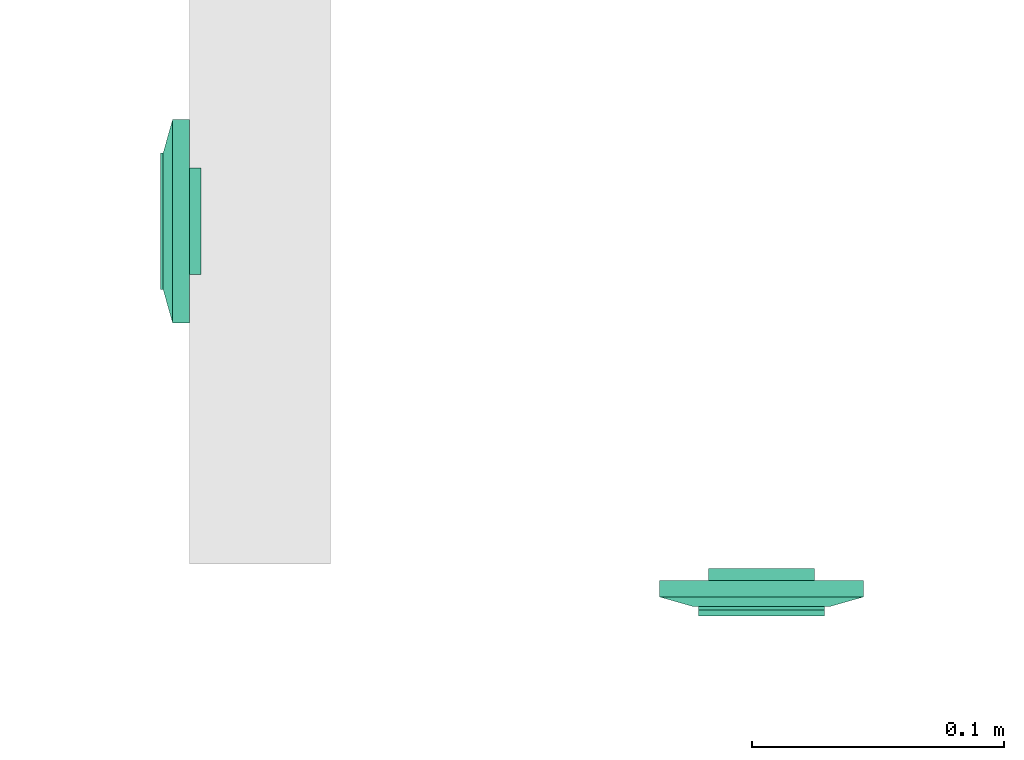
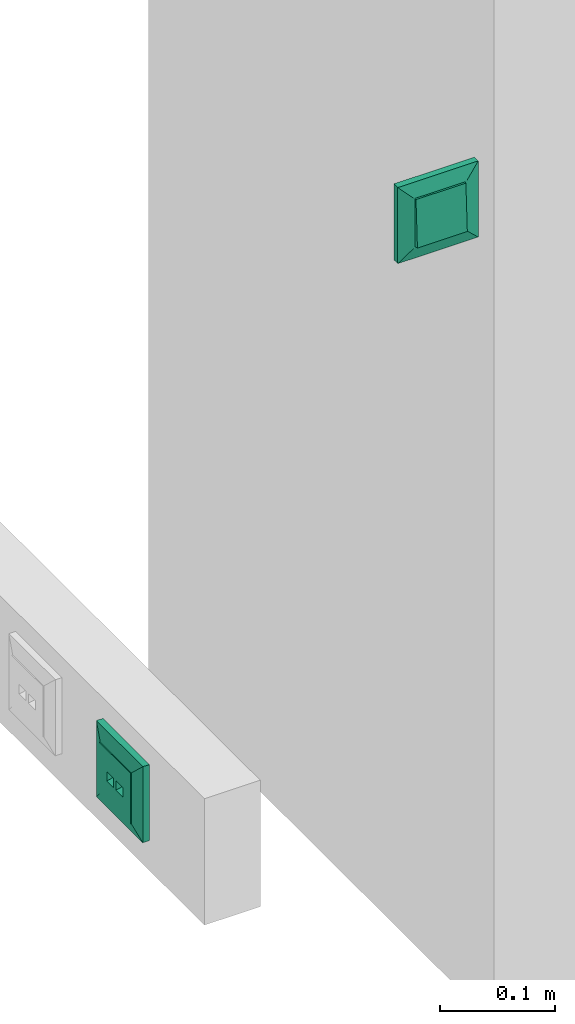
# One storey, part 74 of 166: 2 flow terminals.
"""IFC2X3 building model written with IfcOpenShell, lengths in metres."""

from ifc_helpers import new_model, entity, si_unit, converted_unit, derived_unit, direction, frame, origin, place, context, subcontext, project, spatial, faceted_brep, source, transform, mapped, type_object, type_shapes, element, save


model = new_model("IFC2X3")

# Units and contexts
model_context = context("Model", 3, precision=1e-05, world=origin(), true_north=direction((6.12303176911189e-17, 1.0)))
body_context = subcontext(model_context, "Body", "Model", "MODEL_VIEW")
ifc_project = project(units=[si_unit("LENGTHUNIT", "METRE"), si_unit("AREAUNIT", "SQUARE_METRE"), si_unit("VOLUMEUNIT", "CUBIC_METRE"), converted_unit("PLANEANGLEUNIT", "DEGREE", entity("IfcRatioMeasure", 0.0174532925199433), si_unit("PLANEANGLEUNIT", "RADIAN"), dimensions=[0, 0, 0, 0, 0, 0, 0]), si_unit("MASSUNIT", "GRAM", prefix="KILO"), derived_unit("MASSDENSITYUNIT", [(si_unit("MASSUNIT", "GRAM", prefix="KILO"), 1), (si_unit("LENGTHUNIT", "METRE"), -3)]), si_unit("TIMEUNIT", "SECOND"), si_unit("FREQUENCYUNIT", "HERTZ"), si_unit("THERMODYNAMICTEMPERATUREUNIT", "DEGREE_CELSIUS"), derived_unit("THERMALTRANSMITTANCEUNIT", [(si_unit("MASSUNIT", "GRAM", prefix="KILO"), 1), (si_unit("THERMODYNAMICTEMPERATUREUNIT", "KELVIN"), -1), (si_unit("TIMEUNIT", "SECOND"), -3)]), derived_unit("VOLUMETRICFLOWRATEUNIT", [(si_unit("LENGTHUNIT", "METRE"), 3), (si_unit("TIMEUNIT", "SECOND"), -1)]), si_unit("ELECTRICCURRENTUNIT", "AMPERE"), si_unit("ELECTRICVOLTAGEUNIT", "VOLT"), si_unit("POWERUNIT", "WATT"), si_unit("FORCEUNIT", "NEWTON"), si_unit("ILLUMINANCEUNIT", "LUX"), si_unit("LUMINOUSFLUXUNIT", "LUMEN"), si_unit("LUMINOUSINTENSITYUNIT", "CANDELA"), derived_unit("USERDEFINED", [(si_unit("MASSUNIT", "GRAM", prefix="KILO"), -1), (si_unit("LENGTHUNIT", "METRE"), -2), (si_unit("TIMEUNIT", "SECOND"), 3), (si_unit("LUMINOUSFLUXUNIT", "LUMEN"), 1)]), derived_unit("LINEARVELOCITYUNIT", [(si_unit("LENGTHUNIT", "METRE"), 1), (si_unit("TIMEUNIT", "SECOND"), -1)]), si_unit("PRESSUREUNIT", "PASCAL"), derived_unit("USERDEFINED", [(si_unit("LENGTHUNIT", "METRE"), -2), (si_unit("MASSUNIT", "GRAM", prefix="KILO"), 1), (si_unit("TIMEUNIT", "SECOND"), -2)])], contexts=[model_context])

# Site, building, storey
site_placement = place(None, origin())
site = spatial("IfcSite", under=ifc_project, at=site_placement, Name="Default", CompositionType="ELEMENT")
building_placement = place(site_placement, origin())
building = spatial("IfcBuilding", under=site, at=building_placement, CompositionType="ELEMENT")
storey_placement = place(building_placement, frame((0.0, 0.0, 4.27)))
storey = spatial("IfcBuildingStorey", under=building, at=storey_placement, Name="01", CompositionType="ELEMENT", Elevation=4.27)

# Flow terminals
electric_appliance_type = type_object("IfcElectricApplianceType", Name="RJ45 IP20", PredefinedType="NOTDEFINED")
shared_shape_1 = source(origin(), body_context, "Body", "Brep", [
    faceted_brep([(0.00200000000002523, 0.0, 0.00799999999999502), (0.00400000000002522, 0.0, 0.00799999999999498), (0.00500000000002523, 0.00199999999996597, 0.00799999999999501), (0.0110000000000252, 0.00199999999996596, 0.00799999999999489), (0.0120000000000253, 0.0, 0.00799999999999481), (0.0140000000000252, 0.0, 0.00799999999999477), (0.0140000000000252, 0.00399999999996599, 0.00799999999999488), (0.00200000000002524, 0.00399999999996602, 0.00799999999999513), (0.00200000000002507, 0.0, 0.0), (0.00200000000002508, 0.00399999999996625, 0.0), (0.0140000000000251, 0.00399999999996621, 0.0), (0.0140000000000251, 0.0, 0.0), (0.0120000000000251, 0.0, 0.0), (0.0110000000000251, 0.00199999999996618, 0.0), (0.00500000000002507, 0.0019999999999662, 0.0), (0.00400000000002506, 0.0, 0.0)], [[[0, 1, 2, 3, 4, 5, 6, 7]], [[8, 9, 10, 11, 12, 13, 14, 15]], [[1, 0, 8, 15]], [[2, 1, 15, 14]], [[3, 2, 14, 13]], [[4, 3, 13, 12]], [[5, 4, 12, 11]], [[6, 5, 11, 10]], [[7, 6, 10, 9]], [[0, 7, 9, 8]]]),
    faceted_brep([(-0.0139999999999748, 0.0, 0.00799999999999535), (-0.0119999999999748, 0.0, 0.00799999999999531), (-0.0109999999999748, 0.00199999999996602, 0.00799999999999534), (-0.00499999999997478, 0.00199999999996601, 0.00799999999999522), (-0.0039999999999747, 0.0, 0.00799999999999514), (-0.00199999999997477, 0.0, 0.0079999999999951), (-0.00199999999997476, 0.00399999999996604, 0.00799999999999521), (-0.0139999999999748, 0.00399999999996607, 0.00799999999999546), (-0.0139999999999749, 0.0, 0.0), (-0.0139999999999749, 0.00399999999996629, 0.0), (-0.00199999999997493, 0.00399999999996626, 0.0), (-0.00199999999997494, 0.0, 0.0), (-0.00399999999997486, 0.0, 0.0), (-0.00499999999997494, 0.00199999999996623, 0.0), (-0.0109999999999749, 0.00199999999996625, 0.0), (-0.0119999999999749, 0.0, 0.0)], [[[0, 1, 2, 3, 4, 5, 6, 7]], [[8, 9, 10, 11, 12, 13, 14, 15]], [[1, 0, 8, 15]], [[2, 1, 15, 14]], [[3, 2, 14, 13]], [[4, 3, 13, 12]], [[5, 4, 12, 11]], [[6, 5, 11, 10]], [[7, 6, 10, 9]], [[0, 7, 9, 8]]]),
    faceted_brep([(0.0140000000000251, 0.00399999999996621, 0.0), (0.00200000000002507, 0.00399999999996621, 0.0), (0.00200000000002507, -0.00350000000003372, 0.0), (0.0140000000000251, -0.00350000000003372, 0.0), (0.0140000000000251, 0.00399999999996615, 0.00199999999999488), (0.00200000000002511, 0.00399999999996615, 0.00199999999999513), (0.00200000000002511, -0.00393859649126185, 0.00199999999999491), (0.0140000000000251, -0.00393859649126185, 0.00199999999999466), (0.0210000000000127, 0.0209999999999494, 0.00199999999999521), (-0.0209999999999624, 0.0209999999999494, 0.00199999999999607), (-0.0209999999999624, -0.0210000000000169, 0.00199999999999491), (0.0210000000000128, -0.0210000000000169, 0.00199999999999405), (-0.0139999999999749, 0.0039999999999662, 0.00199999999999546), (-0.0019999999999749, 0.0039999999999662, 0.00199999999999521), (-0.00199999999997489, -0.0039385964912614, 0.00199999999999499), (-0.0139999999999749, -0.00393859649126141, 0.00199999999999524), (0.0210000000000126, 0.0209999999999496, -0.00460000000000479), (0.0210000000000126, -0.0210000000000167, -0.00460000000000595), (-0.0209999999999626, -0.0210000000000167, -0.00460000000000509), (-0.0209999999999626, 0.0209999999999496, -0.00460000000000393), (-0.00199999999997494, 0.00399999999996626, 0.0), (-0.0139999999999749, 0.00399999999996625, 0.0), (-0.0139999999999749, -0.00350000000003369, 0.0), (-0.00199999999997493, -0.00350000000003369, 0.0)], [[[0, 1, 2, 3]], [[1, 0, 4, 5]], [[2, 1, 5, 6]], [[3, 2, 6, 7]], [[0, 3, 7, 4]], [[5, 4, 7, 6], [8, 9, 10, 11], [12, 13, 14, 15]], [[16, 17, 18, 19]], [[9, 8, 16, 19]], [[10, 9, 19, 18]], [[11, 10, 18, 17]], [[8, 11, 17, 16]], [[20, 21, 22, 23]], [[21, 20, 13, 12]], [[22, 21, 12, 15]], [[23, 22, 15, 14]], [[20, 23, 14, 13]]], outer=[[True], [True], [True], [True], [True], [False, True, False], [True], [True], [True], [True], [True], [True], [True], [True], [True], [True]]),
    faceted_brep([(0.0270000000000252, 0.026999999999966, 0.0113999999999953), (-0.0269999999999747, 0.026999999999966, 0.0113999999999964), (-0.0269999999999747, -0.0270000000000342, 0.0113999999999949), (0.0270000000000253, -0.0270000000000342, 0.0113999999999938), (0.0020000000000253, 0.00399999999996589, 0.0113999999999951), (0.0140000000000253, 0.00399999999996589, 0.0113999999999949), (0.0140000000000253, -0.00600000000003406, 0.0113999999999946), (0.0020000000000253, -0.00600000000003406, 0.0113999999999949), (-0.0139999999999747, 0.00399999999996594, 0.0113999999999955), (-0.00199999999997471, 0.00399999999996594, 0.0113999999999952), (-0.00199999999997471, -0.0060000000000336, 0.0113999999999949), (-0.0139999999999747, -0.00600000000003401, 0.0113999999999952), (0.0270000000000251, 0.0269999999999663, 0.00199999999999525), (0.0270000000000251, -0.0270000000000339, 0.00199999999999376), (-0.0269999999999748, -0.0270000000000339, 0.00199999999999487), (-0.0269999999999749, 0.0269999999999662, 0.00199999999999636), (0.0140000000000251, 0.00399999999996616, 0.00199999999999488), (0.00200000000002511, 0.00399999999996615, 0.00199999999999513), (0.00200000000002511, -0.00393859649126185, 0.00199999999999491), (0.0140000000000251, -0.00393859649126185, 0.00199999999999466), (-0.00199999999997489, 0.0039999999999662, 0.00199999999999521), (-0.0139999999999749, 0.0039999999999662, 0.00199999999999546), (-0.0139999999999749, -0.0039385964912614, 0.00199999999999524), (-0.00199999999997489, -0.0039385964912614, 0.00199999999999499)], [[[0, 1, 2, 3], [4, 5, 6, 7], [8, 9, 10, 11]], [[12, 13, 14, 15], [16, 17, 18, 19], [20, 21, 22, 23]], [[1, 0, 12, 15]], [[2, 1, 15, 14]], [[3, 2, 14, 13]], [[0, 3, 13, 12]], [[4, 17, 16, 5]], [[17, 4, 7, 18]], [[18, 7, 6, 19]], [[5, 16, 19, 6]], [[8, 21, 20, 9]], [[21, 8, 11, 22]], [[22, 11, 10, 23]], [[9, 20, 23, 10]]]),
    faceted_brep([(0.027000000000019, 0.0269999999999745, 0.00659999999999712), (-0.0269999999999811, 0.0269999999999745, 0.00659999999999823), (-0.026999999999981, -0.0270000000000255, 0.00659999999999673), (0.027000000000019, -0.0270000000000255, 0.00659999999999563), (0.040350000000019, 0.0403499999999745, 0.00659999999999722), (0.040350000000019, -0.0403500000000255, 0.00659999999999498), (-0.0403499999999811, -0.0403500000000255, 0.00659999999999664), (-0.0403499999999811, 0.0403499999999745, 0.00659999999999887), (-0.026999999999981, 0.0269999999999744, 0.0103999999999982), (0.027000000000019, 0.0269999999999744, 0.0103999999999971), (-0.026999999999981, -0.0270000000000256, 0.0103999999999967), (0.027000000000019, -0.0270000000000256, 0.0103999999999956)], [[[0, 1, 2, 3], [4, 5, 6, 7]], [[4, 7, 8, 9]], [[7, 6, 10, 8]], [[6, 5, 11, 10]], [[5, 4, 9, 11]], [[0, 9, 8, 1]], [[1, 8, 10, 2]], [[2, 10, 11, 3]], [[9, 0, 3, 11]]], outer=[[False, True], [True], [True], [True], [True], [True], [True], [True], [True]]),
    faceted_brep([(0.040350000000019, 0.0403499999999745, 0.00659999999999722), (-0.0403499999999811, 0.0403499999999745, 0.00659999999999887), (-0.0403499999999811, -0.0403500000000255, 0.00659999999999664), (0.040350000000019, -0.0403500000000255, 0.00659999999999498), (-0.0269999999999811, 0.0269999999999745, 0.00659999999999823), (0.0270000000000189, 0.0269999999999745, 0.00659999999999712), (0.0270000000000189, -0.0270000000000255, 0.00659999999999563), (-0.0269999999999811, -0.0270000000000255, 0.00659999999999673), (0.0403500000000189, 0.0403499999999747, 0.0), (0.0403500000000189, -0.0403500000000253, 0.0), (-0.0403499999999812, -0.0403500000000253, 0.0), (-0.0403499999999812, 0.0403499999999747, 0.0), (0.0270000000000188, 0.0269999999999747, 0.0), (-0.0269999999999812, 0.0269999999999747, 0.0), (-0.0269999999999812, -0.0270000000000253, 0.0), (0.0270000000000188, -0.0270000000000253, 0.0)], [[[0, 1, 2, 3], [4, 5, 6, 7]], [[8, 9, 10, 11], [12, 13, 14, 15]], [[1, 0, 8, 11]], [[2, 1, 11, 10]], [[3, 2, 10, 9]], [[0, 3, 9, 8]], [[12, 5, 4, 13]], [[13, 4, 7, 14]], [[14, 7, 6, 15]], [[5, 12, 15, 6]]]),
])
type_shapes(electric_appliance_type, [shared_shape_1])
flow_terminal_1_placement = place(building_placement, frame((40.833743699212, -190.565847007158, 4.70800000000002), z_axis=(-1.0, 0.0, 0.0), x_axis=(0.0, -1.0, 0.0)))
element("IfcFlowTerminal", 1, at=flow_terminal_1_placement, inside=storey, type_object=electric_appliance_type, Name="INT_Prise RJ45:RJ45 IP20", ObjectType="INT_Prise RJ45:RJ45 IP20", context=body_context, shape_type="MappedRepresentation", body=[
    mapped(shared_shape_1, transform((0.0, 0.0, 0.0), scale=1.0)),
])
light_fixture_type = type_object("IfcLightFixtureType", Name="BP IP21", PredefinedType="NOTDEFINED")
shared_shape_2 = source(origin(), body_context, "Body", "Brep", [
    faceted_brep([(0.0, 0.0209999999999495, -0.00460000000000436), (0.00543519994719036, 0.02028444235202, -0.00460000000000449), (0.0105000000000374, 0.0181865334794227, -0.00460000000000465), (0.0148492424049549, 0.014849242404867, -0.00460000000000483), (0.0181865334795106, 0.0104999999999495, -0.00460000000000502), (0.0202844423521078, 0.00543519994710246, -0.00460000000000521), (0.0210000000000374, 0.0, -0.00460000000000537), (0.0202844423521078, -0.00543519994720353, -0.00460000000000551), (0.0181865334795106, -0.0105000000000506, -0.0046000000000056), (0.0148492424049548, -0.0148492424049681, -0.00460000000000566), (0.0105000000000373, -0.0181865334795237, -0.00460000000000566), (0.00543519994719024, -0.0202844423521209, -0.00460000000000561), (0.0, -0.0210000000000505, -0.00460000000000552), (-0.00543519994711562, -0.0202844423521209, -0.00460000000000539), (-0.0104999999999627, -0.0181865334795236, -0.00460000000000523), (-0.0148492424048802, -0.0148492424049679, -0.00460000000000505), (-0.0181865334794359, -0.0105000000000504, -0.00460000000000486), (-0.0202844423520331, -0.00543519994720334, -0.00460000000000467), (-0.0209999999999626, 0.0, -0.00460000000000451), (-0.020284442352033, 0.00543519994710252, -0.00460000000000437), (-0.0181865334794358, 0.0104999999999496, -0.00460000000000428), (-0.0148492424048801, 0.0148492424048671, -0.00460000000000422), (-0.0104999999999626, 0.0181865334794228, -0.00460000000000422), (-0.00543519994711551, 0.02028444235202, -0.00460000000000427), (-0.020284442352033, -0.00543519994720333, 0.0), (-0.0209999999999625, 0.0, 0.0), (-0.0181865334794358, -0.0105000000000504, 0.0), (-0.0104999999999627, -0.0181865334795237, 0.0), (-0.0148492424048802, -0.0148492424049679, 0.0), (-0.00543519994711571, -0.020284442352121, 0.0), (0.0, -0.0210000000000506, 0.0), (0.00543519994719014, -0.0202844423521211, 0.0), (0.0105000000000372, -0.018186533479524, 0.0), (0.0181865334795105, -0.0105000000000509, 0.0), (0.0148492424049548, -0.0148492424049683, 0.0), (0.0202844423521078, -0.00543519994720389, 0.0), (0.0210000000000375, 0.0, 0.0), (0.0202844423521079, 0.00543519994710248, 0.0), (0.0181865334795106, 0.0104999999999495, 0.0), (0.0105000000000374, 0.0181865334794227, 0.0), (0.0148492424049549, 0.014849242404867, 0.0), (0.00543519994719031, 0.0202844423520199, 0.0), (0.0, 0.0209999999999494, 0.0), (-0.00543519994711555, 0.0202844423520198, 0.0), (-0.0104999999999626, 0.0181865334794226, 0.0), (-0.0181865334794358, 0.0104999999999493, 0.0), (-0.0148492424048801, 0.0148492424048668, 0.0), (-0.020284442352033, 0.00543519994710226, 0.0)], [[[0, 1, 2, 3, 4, 5, 6, 7, 8, 9, 10, 11, 12, 13, 14, 15, 16, 17, 18, 19, 20, 21, 22, 23]], [[17, 24, 25, 18]], [[16, 26, 24, 17]], [[27, 28, 15, 14]], [[16, 15, 28, 26]], [[29, 27, 14, 13]], [[30, 29, 13, 12]], [[11, 31, 30, 12]], [[10, 32, 31, 11]], [[33, 34, 9, 8]], [[10, 9, 34, 32]], [[35, 33, 8, 7]], [[36, 35, 7, 6]], [[5, 37, 36, 6]], [[4, 38, 37, 5]], [[39, 40, 3, 2]], [[4, 3, 40, 38]], [[41, 39, 2, 1]], [[42, 41, 1, 0]], [[23, 43, 42, 0]], [[22, 44, 43, 23]], [[45, 46, 21, 20]], [[22, 21, 46, 44]], [[47, 45, 20, 19]], [[25, 47, 19, 18]], [[25, 24, 26, 28, 27, 29, 30, 31, 32, 34, 33, 35, 36, 37, 38, 40, 39, 41, 42, 43, 44, 46, 45, 47]]]),
    faceted_brep([(0.0270000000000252, 0.026999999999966, 0.0103999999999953), (-0.0269999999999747, 0.026999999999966, 0.0103999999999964), (-0.0269999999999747, -0.0270000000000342, 0.0103999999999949), (0.0270000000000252, -0.0270000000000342, 0.0103999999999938), (-0.0254999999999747, 0.0258096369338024, 0.0103999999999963), (0.0255000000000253, 0.0258096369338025, 0.0103999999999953), (0.0255000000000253, -0.0255000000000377, 0.0103999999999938), (-0.0254999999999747, -0.0255000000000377, 0.0103999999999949), (0.0270000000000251, 0.0269999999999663, 0.00199999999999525), (0.0270000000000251, -0.0270000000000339, 0.00199999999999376), (-0.0269999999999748, -0.0270000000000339, 0.00199999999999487), (-0.0269999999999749, 0.0269999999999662, 0.00199999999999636), (0.0255000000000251, 0.0258096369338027, 0.00199999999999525), (-0.0254999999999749, 0.0258096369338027, 0.0019999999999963), (-0.0254999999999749, -0.0255000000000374, 0.00199999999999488), (0.0255000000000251, -0.0255000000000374, 0.00199999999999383)], [[[0, 1, 2, 3], [4, 5, 6, 7]], [[8, 9, 10, 11], [12, 13, 14, 15]], [[1, 0, 8, 11]], [[2, 1, 11, 10]], [[3, 2, 10, 9]], [[0, 3, 9, 8]], [[12, 5, 4, 13]], [[13, 4, 7, 14]], [[14, 7, 6, 15]], [[5, 12, 15, 6]]]),
    faceted_brep([(0.0250000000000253, 0.0253096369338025, 0.00659999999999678), (0.0250000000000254, 0.0253096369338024, 0.0117095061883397), (0.0250000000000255, -0.0245000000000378, 0.0142232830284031), (0.0250000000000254, -0.0250000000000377, 0.0117095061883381), (0.0250000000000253, -0.0250000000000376, 0.00659999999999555), (-0.0249999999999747, 0.0253096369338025, 0.00659999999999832), (-0.0249999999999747, -0.0250000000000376, 0.00659999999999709), (-0.0249999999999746, -0.0250000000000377, 0.0117095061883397), (-0.0249999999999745, -0.0245000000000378, 0.0142232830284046), (-0.0249999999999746, 0.0253096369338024, 0.0117095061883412)], [[[0, 1, 2, 3, 4]], [[5, 6, 7, 8, 9]], [[1, 0, 5, 9]], [[2, 1, 9, 8]], [[3, 2, 8, 7]], [[4, 3, 7, 6]], [[0, 4, 6, 5]]]),
    faceted_brep([(0.027000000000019, 0.0269999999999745, 0.00659999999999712), (-0.0269999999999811, 0.0269999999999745, 0.00659999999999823), (-0.026999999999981, -0.0270000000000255, 0.00659999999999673), (0.027000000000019, -0.0270000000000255, 0.00659999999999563), (0.040350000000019, 0.0403499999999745, 0.00659999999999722), (0.040350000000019, -0.0403500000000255, 0.00659999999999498), (-0.0403499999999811, -0.0403500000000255, 0.00659999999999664), (-0.0403499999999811, 0.0403499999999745, 0.00659999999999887), (-0.026999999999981, 0.0269999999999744, 0.0103999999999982), (0.027000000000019, 0.0269999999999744, 0.0103999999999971), (-0.026999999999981, -0.0270000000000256, 0.0103999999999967), (0.027000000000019, -0.0270000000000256, 0.0103999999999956)], [[[0, 1, 2, 3], [4, 5, 6, 7]], [[4, 7, 8, 9]], [[7, 6, 10, 8]], [[6, 5, 11, 10]], [[5, 4, 9, 11]], [[0, 9, 8, 1]], [[1, 8, 10, 2]], [[2, 10, 11, 3]], [[9, 0, 3, 11]]], outer=[[False, True], [True], [True], [True], [True], [True], [True], [True], [True]]),
    faceted_brep([(0.040350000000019, 0.0403499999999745, 0.00659999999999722), (-0.0403499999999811, 0.0403499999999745, 0.00659999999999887), (-0.0403499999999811, -0.0403500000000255, 0.00659999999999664), (0.040350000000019, -0.0403500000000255, 0.00659999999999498), (-0.0269999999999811, 0.0269999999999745, 0.00659999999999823), (0.0270000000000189, 0.0269999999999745, 0.00659999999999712), (0.0270000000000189, -0.0270000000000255, 0.00659999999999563), (-0.0269999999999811, -0.0270000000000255, 0.00659999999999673), (0.0403500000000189, 0.0403499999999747, 0.0), (0.0403500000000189, -0.0403500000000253, 0.0), (-0.0403499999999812, -0.0403500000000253, 0.0), (-0.0403499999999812, 0.0403499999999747, 0.0), (0.0270000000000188, 0.0269999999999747, 0.0), (-0.0269999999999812, 0.0269999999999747, 0.0), (-0.0269999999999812, -0.0270000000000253, 0.0), (0.0270000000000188, -0.0270000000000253, 0.0)], [[[0, 1, 2, 3], [4, 5, 6, 7]], [[8, 9, 10, 11], [12, 13, 14, 15]], [[1, 0, 8, 11]], [[2, 1, 11, 10]], [[3, 2, 10, 9]], [[0, 3, 9, 8]], [[12, 5, 4, 13]], [[13, 4, 7, 14]], [[14, 7, 6, 15]], [[5, 12, 15, 6]]]),
])
type_shapes(light_fixture_type, [shared_shape_2])
flow_terminal_2_placement = place(building_placement, frame((41.0603773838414, -190.70806962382, 5.32000000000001), z_axis=(0.0, -1.0, 0.0), x_axis=(1.0, 0.0, 0.0)))
element("IfcFlowTerminal", 2, at=flow_terminal_2_placement, inside=storey, type_object=light_fixture_type, Name="INT_Cmd BA:BP IP21", ObjectType="INT_Cmd BA:BP IP21", context=body_context, shape_type="MappedRepresentation", body=[
    mapped(shared_shape_2, transform((0.0, 0.0, 0.0), scale=1.0)),
])

save(model, "model.ifc")
